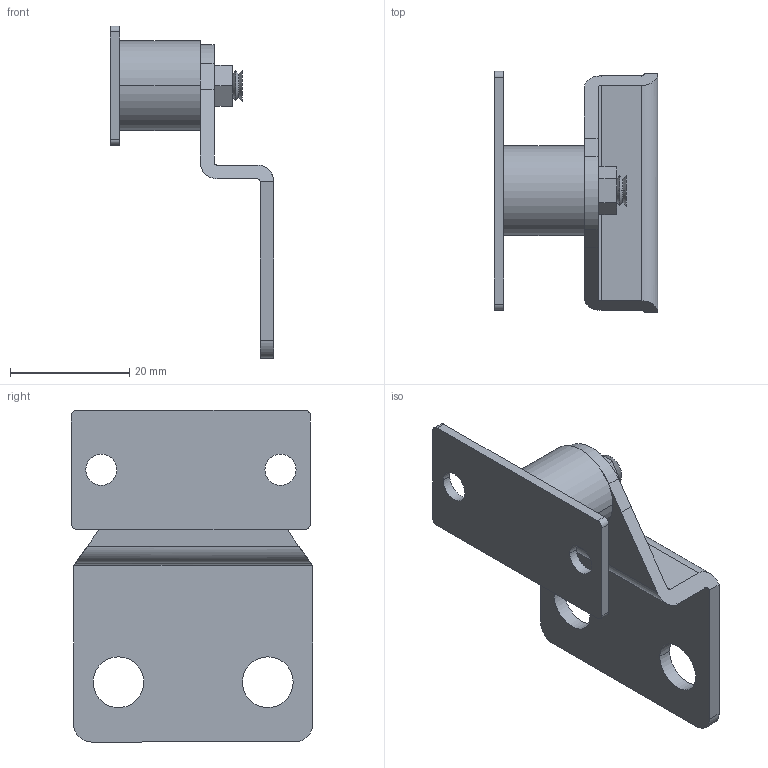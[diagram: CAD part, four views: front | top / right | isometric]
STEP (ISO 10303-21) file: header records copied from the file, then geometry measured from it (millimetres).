
FILE_DESCRIPTION (( 'STEP AP203' ), '1' );
FILE_NAME ('MG0640N-6.STEP', '2024-02-19T13:14:05', ( '' ), ( '' ), 'SwSTEP 2.0', 'SolidWorks 2022', '' );
FILE_SCHEMA (( 'CONFIG_CONTROL_DESIGN' ));
Length unit declared in the file: millimetre
Products named in the file (1): MG0640N-6
Bounding box: 27.4 x 40.37 x 55.58 mm (x, y, z)
Volume: 8142.4 mm3; surface area: 7446.4 mm2
Topology: 4 solids, 4 shells, 84 faces, 199 edges, 124 vertices
Faces by surface type: plane 31, cone 28, cylinder 25
Entity records: 2502 total; most frequent: DIRECTION 433, CARTESIAN_POINT 432, ORIENTED_EDGE 398, EDGE_CURVE 199, AXIS2_PLACEMENT_3D 157, VERTEX_POINT 124, LINE 119, VECTOR 119
